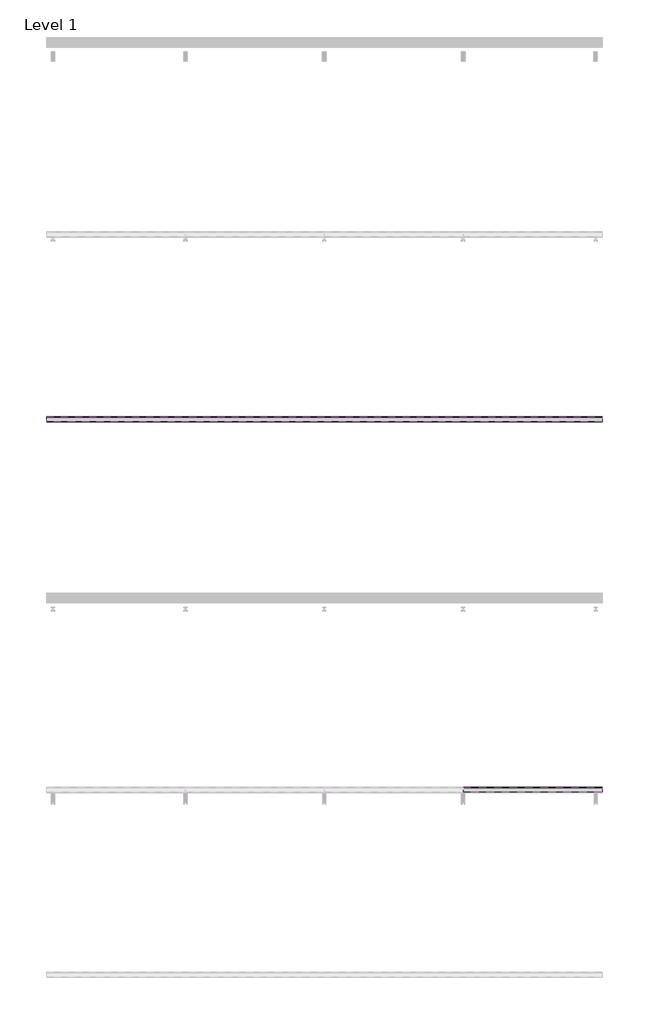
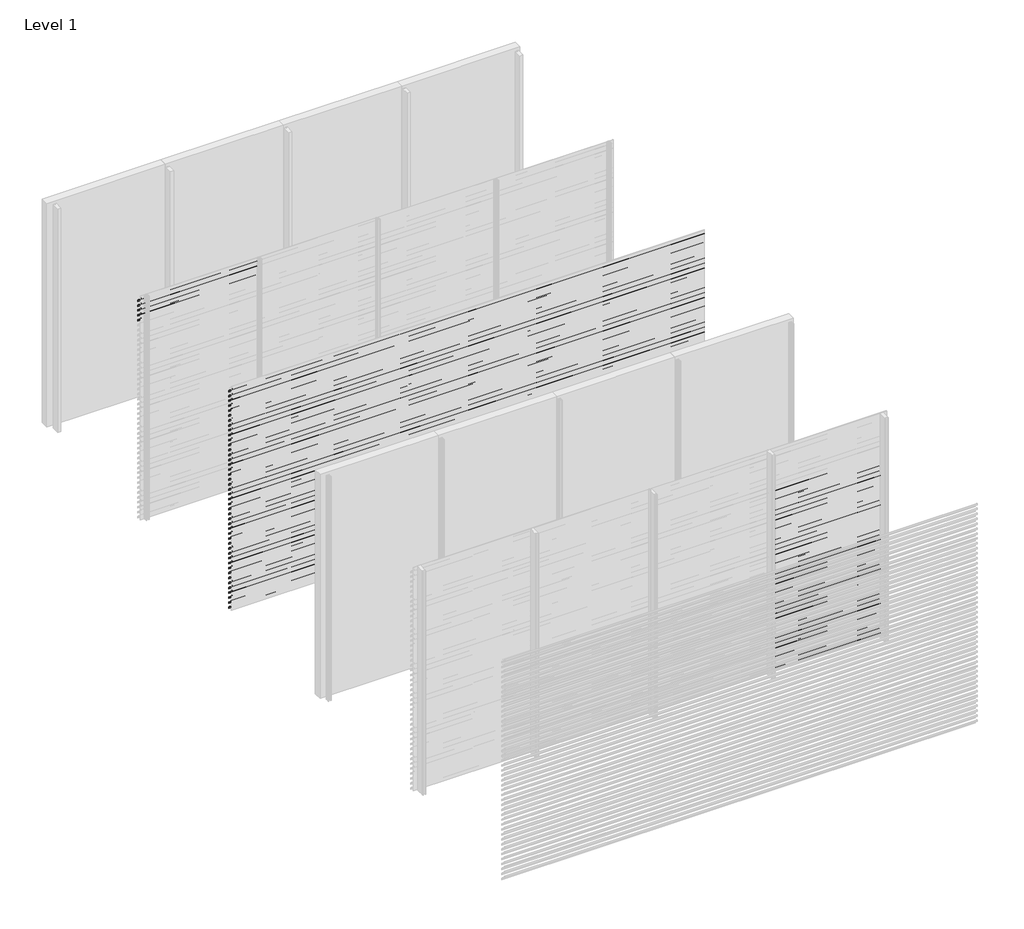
# One storey, part 5 of 25: 87 proxies.
"""IFC4 building model written with IfcOpenShell, lengths in millimetres."""

from ifc_helpers import new_model, si_unit, frame, origin, place, context, project, spatial, polyline, outline, extrude, element, save

model = new_model("IFC4")

# Units and contexts
model_context = context("Model", 3, world=origin())
ifc_project = project(units=[si_unit("LENGTHUNIT", "METRE", prefix="MILLI")], contexts=[model_context])

# Site, building, storey
site = spatial("IfcSite", under=ifc_project)
building = spatial("IfcBuilding", under=site)
storey = spatial("IfcBuildingStorey", under=building, Name="Level 1", Elevation=0.0)

# Proxies
placement = place(None, origin())
element("IfcBuildingElementProxy", 1, Name="Wall Sweeps", at=placement, inside=storey, context=model_context, shape_type="SweptSolid", body=[
    extrude(outline(polyline([(-41943.0, 2913.5), (-41943.0, 2893.5), (-41944.25, 2894.2216933), (-41944.25, 2912.7872415), (-41998.0, 2950.3158044), (-41998.0, 2970.0), (-41996.75, 2970.0), (-41996.75, 2951.0285629), (-41943.0, 2913.5)])), frame((0.0, 0.0, 0.0), z_axis=(1.0, 0.0, 0.0), x_axis=(0.0, 1.0, 0.0)), (0.0, 0.0, 1.0), 1500.0),
])
element("IfcBuildingElementProxy", 2, Name="Wall Sweeps", at=placement, inside=storey, context=model_context, shape_type="SweptSolid", body=[
    extrude(outline(polyline([(-41943.0, 2847.5), (-41943.0, 2827.5), (-41944.25, 2828.2216933), (-41944.25, 2846.7872415), (-41998.0, 2884.3158044), (-41998.0, 2904.0), (-41996.75, 2904.0), (-41996.75, 2885.0285629), (-41943.0, 2847.5)])), frame((0.0, 0.0, 0.0), z_axis=(1.0, 0.0, 0.0), x_axis=(0.0, 1.0, 0.0)), (0.0, 0.0, 1.0), 1500.0),
])
element("IfcBuildingElementProxy", 3, Name="Wall Sweeps", at=placement, inside=storey, context=model_context, shape_type="SweptSolid", body=[
    extrude(outline(polyline([(-41943.0, 2781.5), (-41943.0, 2761.5), (-41944.25, 2762.2216933), (-41944.25, 2780.7872415), (-41998.0, 2818.3158044), (-41998.0, 2838.0), (-41996.75, 2838.0), (-41996.75, 2819.0285629), (-41943.0, 2781.5)])), frame((0.0, 0.0, 0.0), z_axis=(1.0, 0.0, 0.0), x_axis=(0.0, 1.0, 0.0)), (0.0, 0.0, 1.0), 1500.0),
])
element("IfcBuildingElementProxy", 4, Name="Wall Sweeps", at=placement, inside=storey, context=model_context, shape_type="SweptSolid", body=[
    extrude(outline(polyline([(-41943.0, 2715.5), (-41943.0, 2695.5), (-41944.25, 2696.2216933), (-41944.25, 2714.7872415), (-41998.0, 2752.3158044), (-41998.0, 2772.0), (-41996.75, 2772.0), (-41996.75, 2753.0285629), (-41943.0, 2715.5)])), frame((0.0, 0.0, 0.0), z_axis=(1.0, 0.0, 0.0), x_axis=(0.0, 1.0, 0.0)), (0.0, 0.0, 1.0), 1500.0),
])
element("IfcBuildingElementProxy", 5, Name="Wall Sweeps", at=placement, inside=storey, context=model_context, shape_type="SweptSolid", body=[
    extrude(outline(polyline([(-41943.0, 2649.5), (-41943.0, 2629.5), (-41944.25, 2630.2216933), (-41944.25, 2648.7872415), (-41998.0, 2686.3158044), (-41998.0, 2706.0), (-41996.75, 2706.0), (-41996.75, 2687.0285629), (-41943.0, 2649.5)])), frame((0.0, 0.0, 0.0), z_axis=(1.0, 0.0, 0.0), x_axis=(0.0, 1.0, 0.0)), (0.0, 0.0, 1.0), 1500.0),
])
element("IfcBuildingElementProxy", 6, Name="Wall Sweeps", at=placement, inside=storey, context=model_context, shape_type="SweptSolid", body=[
    extrude(outline(polyline([(-43943.0, 2913.5), (-43943.0, 2893.5), (-43944.25, 2894.2216933), (-43944.25, 2912.7872415), (-43998.0, 2950.3158044), (-43998.0, 2970.0), (-43996.75, 2970.0), (-43996.75, 2951.0285629), (-43943.0, 2913.5)])), frame((0.0, 0.0, 0.0), z_axis=(1.0, 0.0, 0.0), x_axis=(0.0, 1.0, 0.0)), (0.0, 0.0, 1.0), 6000.0),
])
element("IfcBuildingElementProxy", 7, Name="Wall Sweeps", at=placement, inside=storey, context=model_context, shape_type="SweptSolid", body=[
    extrude(outline(polyline([(-43943.0, 2847.5), (-43943.0, 2827.5), (-43944.25, 2828.2216933), (-43944.25, 2846.7872415), (-43998.0, 2884.3158044), (-43998.0, 2904.0), (-43996.75, 2904.0), (-43996.75, 2885.0285629), (-43943.0, 2847.5)])), frame((0.0, 0.0, 0.0), z_axis=(1.0, 0.0, 0.0), x_axis=(0.0, 1.0, 0.0)), (0.0, 0.0, 1.0), 6000.0),
])
element("IfcBuildingElementProxy", 8, Name="Wall Sweeps", at=placement, inside=storey, context=model_context, shape_type="SweptSolid", body=[
    extrude(outline(polyline([(-43943.0, 2781.5), (-43943.0, 2761.5), (-43944.25, 2762.2216933), (-43944.25, 2780.7872415), (-43998.0, 2818.3158044), (-43998.0, 2838.0), (-43996.75, 2838.0), (-43996.75, 2819.0285629), (-43943.0, 2781.5)])), frame((0.0, 0.0, 0.0), z_axis=(1.0, 0.0, 0.0), x_axis=(0.0, 1.0, 0.0)), (0.0, 0.0, 1.0), 6000.0),
])
element("IfcBuildingElementProxy", 9, Name="Wall Sweeps", at=placement, inside=storey, context=model_context, shape_type="SweptSolid", body=[
    extrude(outline(polyline([(-43943.0, 2715.5), (-43943.0, 2695.5), (-43944.25, 2696.2216933), (-43944.25, 2714.7872415), (-43998.0, 2752.3158044), (-43998.0, 2772.0), (-43996.75, 2772.0), (-43996.75, 2753.0285629), (-43943.0, 2715.5)])), frame((0.0, 0.0, 0.0), z_axis=(1.0, 0.0, 0.0), x_axis=(0.0, 1.0, 0.0)), (0.0, 0.0, 1.0), 6000.0),
])
element("IfcBuildingElementProxy", 10, Name="Wall Sweeps", at=placement, inside=storey, context=model_context, shape_type="SweptSolid", body=[
    extrude(outline(polyline([(-43943.0, 2649.5), (-43943.0, 2629.5), (-43944.25, 2630.2216933), (-43944.25, 2648.7872415), (-43998.0, 2686.3158044), (-43998.0, 2706.0), (-43996.75, 2706.0), (-43996.75, 2687.0285629), (-43943.0, 2649.5)])), frame((0.0, 0.0, 0.0), z_axis=(1.0, 0.0, 0.0), x_axis=(0.0, 1.0, 0.0)), (0.0, 0.0, 1.0), 6000.0),
])
element("IfcBuildingElementProxy", 11, Name="Wall Sweeps", at=placement, inside=storey, context=model_context, shape_type="SweptSolid", body=[
    extrude(outline(polyline([(-43943.0, 2583.5), (-43943.0, 2563.5), (-43944.25, 2564.2216933), (-43944.25, 2582.7872415), (-43998.0, 2620.3158044), (-43998.0, 2640.0), (-43996.75, 2640.0), (-43996.75, 2621.0285629), (-43943.0, 2583.5)])), frame((0.0, 0.0, 0.0), z_axis=(1.0, 0.0, 0.0), x_axis=(0.0, 1.0, 0.0)), (0.0, 0.0, 1.0), 6000.0),
])
element("IfcBuildingElementProxy", 12, Name="Wall Sweeps", at=placement, inside=storey, context=model_context, shape_type="SweptSolid", body=[
    extrude(outline(polyline([(-43943.0, 2517.5), (-43943.0, 2497.5), (-43944.25, 2498.2216933), (-43944.25, 2516.7872415), (-43998.0, 2554.3158044), (-43998.0, 2574.0), (-43996.75, 2574.0), (-43996.75, 2555.0285629), (-43943.0, 2517.5)])), frame((0.0, 0.0, 0.0), z_axis=(1.0, 0.0, 0.0), x_axis=(0.0, 1.0, 0.0)), (0.0, 0.0, 1.0), 6000.0),
])
element("IfcBuildingElementProxy", 13, Name="Wall Sweeps", at=placement, inside=storey, context=model_context, shape_type="SweptSolid", body=[
    extrude(outline(polyline([(-43943.0, 2451.5), (-43943.0, 2431.5), (-43944.25, 2432.2216933), (-43944.25, 2450.7872415), (-43998.0, 2488.3158044), (-43998.0, 2508.0), (-43996.75, 2508.0), (-43996.75, 2489.0285629), (-43943.0, 2451.5)])), frame((0.0, 0.0, 0.0), z_axis=(1.0, 0.0, 0.0), x_axis=(0.0, 1.0, 0.0)), (0.0, 0.0, 1.0), 6000.0),
])
element("IfcBuildingElementProxy", 14, Name="Wall Sweeps", at=placement, inside=storey, context=model_context, shape_type="SweptSolid", body=[
    extrude(outline(polyline([(-43943.0, 2385.5), (-43943.0, 2365.5), (-43944.25, 2366.2216933), (-43944.25, 2384.7872415), (-43998.0, 2422.3158044), (-43998.0, 2442.0), (-43996.75, 2442.0), (-43996.75, 2423.0285629), (-43943.0, 2385.5)])), frame((0.0, 0.0, 0.0), z_axis=(1.0, 0.0, 0.0), x_axis=(0.0, 1.0, 0.0)), (0.0, 0.0, 1.0), 6000.0),
])
element("IfcBuildingElementProxy", 15, Name="Wall Sweeps", at=placement, inside=storey, context=model_context, shape_type="SweptSolid", body=[
    extrude(outline(polyline([(-43943.0, 2319.5), (-43943.0, 2299.5), (-43944.25, 2300.2216933), (-43944.25, 2318.7872415), (-43998.0, 2356.3158044), (-43998.0, 2376.0), (-43996.75, 2376.0), (-43996.75, 2357.0285629), (-43943.0, 2319.5)])), frame((0.0, 0.0, 0.0), z_axis=(1.0, 0.0, 0.0), x_axis=(0.0, 1.0, 0.0)), (0.0, 0.0, 1.0), 6000.0),
])
element("IfcBuildingElementProxy", 16, Name="Wall Sweeps", at=placement, inside=storey, context=model_context, shape_type="SweptSolid", body=[
    extrude(outline(polyline([(-43943.0, 2253.5), (-43943.0, 2233.5), (-43944.25, 2234.2216933), (-43944.25, 2252.7872415), (-43998.0, 2290.3158044), (-43998.0, 2310.0), (-43996.75, 2310.0), (-43996.75, 2291.0285629), (-43943.0, 2253.5)])), frame((0.0, 0.0, 0.0), z_axis=(1.0, 0.0, 0.0), x_axis=(0.0, 1.0, 0.0)), (0.0, 0.0, 1.0), 6000.0),
])
element("IfcBuildingElementProxy", 17, Name="Wall Sweeps", at=placement, inside=storey, context=model_context, shape_type="SweptSolid", body=[
    extrude(outline(polyline([(-43943.0, 2187.5), (-43943.0, 2167.5), (-43944.25, 2168.2216933), (-43944.25, 2186.7872415), (-43998.0, 2224.3158044), (-43998.0, 2244.0), (-43996.75, 2244.0), (-43996.75, 2225.0285629), (-43943.0, 2187.5)])), frame((0.0, 0.0, 0.0), z_axis=(1.0, 0.0, 0.0), x_axis=(0.0, 1.0, 0.0)), (0.0, 0.0, 1.0), 6000.0),
])
element("IfcBuildingElementProxy", 18, Name="Wall Sweeps", at=placement, inside=storey, context=model_context, shape_type="SweptSolid", body=[
    extrude(outline(polyline([(-43943.0, 2121.5), (-43943.0, 2101.5), (-43944.25, 2102.2216933), (-43944.25, 2120.7872415), (-43998.0, 2158.3158044), (-43998.0, 2178.0), (-43996.75, 2178.0), (-43996.75, 2159.0285629), (-43943.0, 2121.5)])), frame((0.0, 0.0, 0.0), z_axis=(1.0, 0.0, 0.0), x_axis=(0.0, 1.0, 0.0)), (0.0, 0.0, 1.0), 6000.0),
])
element("IfcBuildingElementProxy", 19, Name="Wall Sweeps", at=placement, inside=storey, context=model_context, shape_type="SweptSolid", body=[
    extrude(outline(polyline([(-43943.0, 2055.5), (-43943.0, 2035.5), (-43944.25, 2036.2216933), (-43944.25, 2054.7872415), (-43998.0, 2092.3158044), (-43998.0, 2112.0), (-43996.75, 2112.0), (-43996.75, 2093.0285629), (-43943.0, 2055.5)])), frame((0.0, 0.0, 0.0), z_axis=(1.0, 0.0, 0.0), x_axis=(0.0, 1.0, 0.0)), (0.0, 0.0, 1.0), 6000.0),
])
element("IfcBuildingElementProxy", 20, Name="Wall Sweeps", at=placement, inside=storey, context=model_context, shape_type="SweptSolid", body=[
    extrude(outline(polyline([(-43943.0, 1989.5), (-43943.0, 1969.5), (-43944.25, 1970.2216933), (-43944.25, 1988.7872415), (-43998.0, 2026.3158044), (-43998.0, 2046.0), (-43996.75, 2046.0), (-43996.75, 2027.0285629), (-43943.0, 1989.5)])), frame((0.0, 0.0, 0.0), z_axis=(1.0, 0.0, 0.0), x_axis=(0.0, 1.0, 0.0)), (0.0, 0.0, 1.0), 6000.0),
])
element("IfcBuildingElementProxy", 21, Name="Wall Sweeps", at=placement, inside=storey, context=model_context, shape_type="SweptSolid", body=[
    extrude(outline(polyline([(-43943.0, 1923.5), (-43943.0, 1903.5), (-43944.25, 1904.2216933), (-43944.25, 1922.7872415), (-43998.0, 1960.3158044), (-43998.0, 1980.0), (-43996.75, 1980.0), (-43996.75, 1961.0285629), (-43943.0, 1923.5)])), frame((0.0, 0.0, 0.0), z_axis=(1.0, 0.0, 0.0), x_axis=(0.0, 1.0, 0.0)), (0.0, 0.0, 1.0), 6000.0),
])
element("IfcBuildingElementProxy", 22, Name="Wall Sweeps", at=placement, inside=storey, context=model_context, shape_type="SweptSolid", body=[
    extrude(outline(polyline([(-43943.0, 1857.5), (-43943.0, 1837.5), (-43944.25, 1838.2216933), (-43944.25, 1856.7872415), (-43998.0, 1894.3158044), (-43998.0, 1914.0), (-43996.75, 1914.0), (-43996.75, 1895.0285629), (-43943.0, 1857.5)])), frame((0.0, 0.0, 0.0), z_axis=(1.0, 0.0, 0.0), x_axis=(0.0, 1.0, 0.0)), (0.0, 0.0, 1.0), 6000.0),
])
element("IfcBuildingElementProxy", 23, Name="Wall Sweeps", at=placement, inside=storey, context=model_context, shape_type="SweptSolid", body=[
    extrude(outline(polyline([(-43943.0, 1791.5), (-43943.0, 1771.5), (-43944.25, 1772.2216933), (-43944.25, 1790.7872415), (-43998.0, 1828.3158044), (-43998.0, 1848.0), (-43996.75, 1848.0), (-43996.75, 1829.0285629), (-43943.0, 1791.5)])), frame((0.0, 0.0, 0.0), z_axis=(1.0, 0.0, 0.0), x_axis=(0.0, 1.0, 0.0)), (0.0, 0.0, 1.0), 6000.0),
])
element("IfcBuildingElementProxy", 24, Name="Wall Sweeps", at=placement, inside=storey, context=model_context, shape_type="SweptSolid", body=[
    extrude(outline(polyline([(-43943.0, 1725.5), (-43943.0, 1705.5), (-43944.25, 1706.2216933), (-43944.25, 1724.7872415), (-43998.0, 1762.3158044), (-43998.0, 1782.0), (-43996.75, 1782.0), (-43996.75, 1763.0285629), (-43943.0, 1725.5)])), frame((0.0, 0.0, 0.0), z_axis=(1.0, 0.0, 0.0), x_axis=(0.0, 1.0, 0.0)), (0.0, 0.0, 1.0), 6000.0),
])
element("IfcBuildingElementProxy", 25, Name="Wall Sweeps", at=placement, inside=storey, context=model_context, shape_type="SweptSolid", body=[
    extrude(outline(polyline([(-43943.0, 1659.5), (-43943.0, 1639.5), (-43944.25, 1640.2216933), (-43944.25, 1658.7872415), (-43998.0, 1696.3158044), (-43998.0, 1716.0), (-43996.75, 1716.0), (-43996.75, 1697.0285629), (-43943.0, 1659.5)])), frame((0.0, 0.0, 0.0), z_axis=(1.0, 0.0, 0.0), x_axis=(0.0, 1.0, 0.0)), (0.0, 0.0, 1.0), 6000.0),
])
element("IfcBuildingElementProxy", 26, Name="Wall Sweeps", at=placement, inside=storey, context=model_context, shape_type="SweptSolid", body=[
    extrude(outline(polyline([(-43943.0, 1593.5), (-43943.0, 1573.5), (-43944.25, 1574.2216933), (-43944.25, 1592.7872415), (-43998.0, 1630.3158044), (-43998.0, 1650.0), (-43996.75, 1650.0), (-43996.75, 1631.0285629), (-43943.0, 1593.5)])), frame((0.0, 0.0, 0.0), z_axis=(1.0, 0.0, 0.0), x_axis=(0.0, 1.0, 0.0)), (0.0, 0.0, 1.0), 6000.0),
])
element("IfcBuildingElementProxy", 27, Name="Wall Sweeps", at=placement, inside=storey, context=model_context, shape_type="SweptSolid", body=[
    extrude(outline(polyline([(-43943.0, 1527.5), (-43943.0, 1507.5), (-43944.25, 1508.2216933), (-43944.25, 1526.7872415), (-43998.0, 1564.3158044), (-43998.0, 1584.0), (-43996.75, 1584.0), (-43996.75, 1565.0285629), (-43943.0, 1527.5)])), frame((0.0, 0.0, 0.0), z_axis=(1.0, 0.0, 0.0), x_axis=(0.0, 1.0, 0.0)), (0.0, 0.0, 1.0), 6000.0),
])
element("IfcBuildingElementProxy", 28, Name="Wall Sweeps", at=placement, inside=storey, context=model_context, shape_type="SweptSolid", body=[
    extrude(outline(polyline([(-43943.0, 1461.5), (-43943.0, 1441.5), (-43944.25, 1442.2216933), (-43944.25, 1460.7872415), (-43998.0, 1498.3158044), (-43998.0, 1518.0), (-43996.75, 1518.0), (-43996.75, 1499.0285629), (-43943.0, 1461.5)])), frame((0.0, 0.0, 0.0), z_axis=(1.0, 0.0, 0.0), x_axis=(0.0, 1.0, 0.0)), (0.0, 0.0, 1.0), 6000.0),
])
element("IfcBuildingElementProxy", 29, Name="Wall Sweeps", at=placement, inside=storey, context=model_context, shape_type="SweptSolid", body=[
    extrude(outline(polyline([(-43943.0, 1395.5), (-43943.0, 1375.5), (-43944.25, 1376.2216933), (-43944.25, 1394.7872415), (-43998.0, 1432.3158044), (-43998.0, 1452.0), (-43996.75, 1452.0), (-43996.75, 1433.0285629), (-43943.0, 1395.5)])), frame((0.0, 0.0, 0.0), z_axis=(1.0, 0.0, 0.0), x_axis=(0.0, 1.0, 0.0)), (0.0, 0.0, 1.0), 6000.0),
])
element("IfcBuildingElementProxy", 30, Name="Wall Sweeps", at=placement, inside=storey, context=model_context, shape_type="SweptSolid", body=[
    extrude(outline(polyline([(-43943.0, 1329.5), (-43943.0, 1309.5), (-43944.25, 1310.2216933), (-43944.25, 1328.7872415), (-43998.0, 1366.3158044), (-43998.0, 1386.0), (-43996.75, 1386.0), (-43996.75, 1367.0285629), (-43943.0, 1329.5)])), frame((0.0, 0.0, 0.0), z_axis=(1.0, 0.0, 0.0), x_axis=(0.0, 1.0, 0.0)), (0.0, 0.0, 1.0), 6000.0),
])
element("IfcBuildingElementProxy", 31, Name="Wall Sweeps", at=placement, inside=storey, context=model_context, shape_type="SweptSolid", body=[
    extrude(outline(polyline([(-43943.0, 1263.5), (-43943.0, 1243.5), (-43944.25, 1244.2216933), (-43944.25, 1262.7872415), (-43998.0, 1300.3158044), (-43998.0, 1320.0), (-43996.75, 1320.0), (-43996.75, 1301.0285629), (-43943.0, 1263.5)])), frame((0.0, 0.0, 0.0), z_axis=(1.0, 0.0, 0.0), x_axis=(0.0, 1.0, 0.0)), (0.0, 0.0, 1.0), 6000.0),
])
element("IfcBuildingElementProxy", 32, Name="Wall Sweeps", at=placement, inside=storey, context=model_context, shape_type="SweptSolid", body=[
    extrude(outline(polyline([(-43943.0, 1197.5), (-43943.0, 1177.5), (-43944.25, 1178.2216933), (-43944.25, 1196.7872415), (-43998.0, 1234.3158044), (-43998.0, 1254.0), (-43996.75, 1254.0), (-43996.75, 1235.0285629), (-43943.0, 1197.5)])), frame((0.0, 0.0, 0.0), z_axis=(1.0, 0.0, 0.0), x_axis=(0.0, 1.0, 0.0)), (0.0, 0.0, 1.0), 6000.0),
])
element("IfcBuildingElementProxy", 33, Name="Wall Sweeps", at=placement, inside=storey, context=model_context, shape_type="SweptSolid", body=[
    extrude(outline(polyline([(-43943.0, 1131.5), (-43943.0, 1111.5), (-43944.25, 1112.2216933), (-43944.25, 1130.7872415), (-43998.0, 1168.3158044), (-43998.0, 1188.0), (-43996.75, 1188.0), (-43996.75, 1169.0285629), (-43943.0, 1131.5)])), frame((0.0, 0.0, 0.0), z_axis=(1.0, 0.0, 0.0), x_axis=(0.0, 1.0, 0.0)), (0.0, 0.0, 1.0), 6000.0),
])
element("IfcBuildingElementProxy", 34, Name="Wall Sweeps", at=placement, inside=storey, context=model_context, shape_type="SweptSolid", body=[
    extrude(outline(polyline([(-43943.0, 1065.5), (-43943.0, 1045.5), (-43944.25, 1046.2216933), (-43944.25, 1064.7872415), (-43998.0, 1102.3158044), (-43998.0, 1122.0), (-43996.75, 1122.0), (-43996.75, 1103.0285629), (-43943.0, 1065.5)])), frame((0.0, 0.0, 0.0), z_axis=(1.0, 0.0, 0.0), x_axis=(0.0, 1.0, 0.0)), (0.0, 0.0, 1.0), 6000.0),
])
element("IfcBuildingElementProxy", 35, Name="Wall Sweeps", at=placement, inside=storey, context=model_context, shape_type="SweptSolid", body=[
    extrude(outline(polyline([(-43943.0, 999.5), (-43943.0, 979.5), (-43944.25, 980.2216933), (-43944.25, 998.7872415), (-43998.0, 1036.3158044), (-43998.0, 1056.0), (-43996.75, 1056.0), (-43996.75, 1037.0285629), (-43943.0, 999.5)])), frame((0.0, 0.0, 0.0), z_axis=(1.0, 0.0, 0.0), x_axis=(0.0, 1.0, 0.0)), (0.0, 0.0, 1.0), 6000.0),
])
element("IfcBuildingElementProxy", 36, Name="Wall Sweeps", at=placement, inside=storey, context=model_context, shape_type="SweptSolid", body=[
    extrude(outline(polyline([(-43943.0, 933.5), (-43943.0, 913.5), (-43944.25, 914.2216933), (-43944.25, 932.7872415), (-43998.0, 970.3158044), (-43998.0, 990.0), (-43996.75, 990.0), (-43996.75, 971.0285629), (-43943.0, 933.5)])), frame((0.0, 0.0, 0.0), z_axis=(1.0, 0.0, 0.0), x_axis=(0.0, 1.0, 0.0)), (0.0, 0.0, 1.0), 6000.0),
])
element("IfcBuildingElementProxy", 37, Name="Wall Sweeps", at=placement, inside=storey, context=model_context, shape_type="SweptSolid", body=[
    extrude(outline(polyline([(-43943.0, 867.5), (-43943.0, 847.5), (-43944.25, 848.2216933), (-43944.25, 866.7872415), (-43998.0, 904.3158044), (-43998.0, 924.0), (-43996.75, 924.0), (-43996.75, 905.0285629), (-43943.0, 867.5)])), frame((0.0, 0.0, 0.0), z_axis=(1.0, 0.0, 0.0), x_axis=(0.0, 1.0, 0.0)), (0.0, 0.0, 1.0), 6000.0),
])
element("IfcBuildingElementProxy", 38, Name="Wall Sweeps", at=placement, inside=storey, context=model_context, shape_type="SweptSolid", body=[
    extrude(outline(polyline([(-43943.0, 801.5), (-43943.0, 781.5), (-43944.25, 782.2216933), (-43944.25, 800.7872415), (-43998.0, 838.3158044), (-43998.0, 858.0), (-43996.75, 858.0), (-43996.75, 839.0285629), (-43943.0, 801.5)])), frame((0.0, 0.0, 0.0), z_axis=(1.0, 0.0, 0.0), x_axis=(0.0, 1.0, 0.0)), (0.0, 0.0, 1.0), 6000.0),
])
element("IfcBuildingElementProxy", 39, Name="Wall Sweeps", at=placement, inside=storey, context=model_context, shape_type="SweptSolid", body=[
    extrude(outline(polyline([(-43943.0, 735.5), (-43943.0, 715.5), (-43944.25, 716.2216933), (-43944.25, 734.7872415), (-43998.0, 772.3158044), (-43998.0, 792.0), (-43996.75, 792.0), (-43996.75, 773.0285629), (-43943.0, 735.5)])), frame((0.0, 0.0, 0.0), z_axis=(1.0, 0.0, 0.0), x_axis=(0.0, 1.0, 0.0)), (0.0, 0.0, 1.0), 6000.0),
])
element("IfcBuildingElementProxy", 40, Name="Wall Sweeps", at=placement, inside=storey, context=model_context, shape_type="SweptSolid", body=[
    extrude(outline(polyline([(-43943.0, 669.5), (-43943.0, 649.5), (-43944.25, 650.2216933), (-43944.25, 668.7872415), (-43998.0, 706.3158044), (-43998.0, 726.0), (-43996.75, 726.0), (-43996.75, 707.0285629), (-43943.0, 669.5)])), frame((0.0, 0.0, 0.0), z_axis=(1.0, 0.0, 0.0), x_axis=(0.0, 1.0, 0.0)), (0.0, 0.0, 1.0), 6000.0),
])
element("IfcBuildingElementProxy", 41, Name="Wall Sweeps", at=placement, inside=storey, context=model_context, shape_type="SweptSolid", body=[
    extrude(outline(polyline([(-43943.0, 603.5), (-43943.0, 583.5), (-43944.25, 584.2216933), (-43944.25, 602.7872415), (-43998.0, 640.3158044), (-43998.0, 660.0), (-43996.75, 660.0), (-43996.75, 641.0285629), (-43943.0, 603.5)])), frame((0.0, 0.0, 0.0), z_axis=(1.0, 0.0, 0.0), x_axis=(0.0, 1.0, 0.0)), (0.0, 0.0, 1.0), 6000.0),
])
element("IfcBuildingElementProxy", 42, Name="Wall Sweeps", at=placement, inside=storey, context=model_context, shape_type="SweptSolid", body=[
    extrude(outline(polyline([(-43943.0, 537.5), (-43943.0, 517.5), (-43944.25, 518.2216933), (-43944.25, 536.7872415), (-43998.0, 574.3158044), (-43998.0, 594.0), (-43996.75, 594.0), (-43996.75, 575.0285629), (-43943.0, 537.5)])), frame((0.0, 0.0, 0.0), z_axis=(1.0, 0.0, 0.0), x_axis=(0.0, 1.0, 0.0)), (0.0, 0.0, 1.0), 6000.0),
])
element("IfcBuildingElementProxy", 43, Name="Wall Sweeps", at=placement, inside=storey, context=model_context, shape_type="SweptSolid", body=[
    extrude(outline(polyline([(-43943.0, 471.5), (-43943.0, 451.5), (-43944.25, 452.2216933), (-43944.25, 470.7872415), (-43998.0, 508.3158044), (-43998.0, 528.0), (-43996.75, 528.0), (-43996.75, 509.0285629), (-43943.0, 471.5)])), frame((0.0, 0.0, 0.0), z_axis=(1.0, 0.0, 0.0), x_axis=(0.0, 1.0, 0.0)), (0.0, 0.0, 1.0), 6000.0),
])
element("IfcBuildingElementProxy", 44, Name="Wall Sweeps", at=placement, inside=storey, context=model_context, shape_type="SweptSolid", body=[
    extrude(outline(polyline([(-43943.0, 405.5), (-43943.0, 385.5), (-43944.25, 386.2216933), (-43944.25, 404.7872415), (-43998.0, 442.3158044), (-43998.0, 462.0), (-43996.75, 462.0), (-43996.75, 443.0285629), (-43943.0, 405.5)])), frame((0.0, 0.0, 0.0), z_axis=(1.0, 0.0, 0.0), x_axis=(0.0, 1.0, 0.0)), (0.0, 0.0, 1.0), 6000.0),
])
element("IfcBuildingElementProxy", 45, Name="Wall Sweeps", at=placement, inside=storey, context=model_context, shape_type="SweptSolid", body=[
    extrude(outline(polyline([(-43943.0, 339.5), (-43943.0, 319.5), (-43944.25, 320.2216933), (-43944.25, 338.7872415), (-43998.0, 376.3158044), (-43998.0, 396.0), (-43996.75, 396.0), (-43996.75, 377.0285629), (-43943.0, 339.5)])), frame((0.0, 0.0, 0.0), z_axis=(1.0, 0.0, 0.0), x_axis=(0.0, 1.0, 0.0)), (0.0, 0.0, 1.0), 6000.0),
])
element("IfcBuildingElementProxy", 46, Name="Wall Sweeps", at=placement, inside=storey, context=model_context, shape_type="SweptSolid", body=[
    extrude(outline(polyline([(-43943.0, 273.5), (-43943.0, 253.5), (-43944.25, 254.2216933), (-43944.25, 272.7872415), (-43998.0, 310.3158044), (-43998.0, 330.0), (-43996.75, 330.0), (-43996.75, 311.0285629), (-43943.0, 273.5)])), frame((0.0, 0.0, 0.0), z_axis=(1.0, 0.0, 0.0), x_axis=(0.0, 1.0, 0.0)), (0.0, 0.0, 1.0), 6000.0),
])
element("IfcBuildingElementProxy", 47, Name="Wall Sweeps", at=placement, inside=storey, context=model_context, shape_type="SweptSolid", body=[
    extrude(outline(polyline([(-43943.0, 207.5), (-43943.0, 187.5), (-43944.25, 188.2216933), (-43944.25, 206.7872415), (-43998.0, 244.3158044), (-43998.0, 264.0), (-43996.75, 264.0), (-43996.75, 245.0285629), (-43943.0, 207.5)])), frame((0.0, 0.0, 0.0), z_axis=(1.0, 0.0, 0.0), x_axis=(0.0, 1.0, 0.0)), (0.0, 0.0, 1.0), 6000.0),
])
element("IfcBuildingElementProxy", 48, Name="Wall Sweeps", at=placement, inside=storey, context=model_context, shape_type="SweptSolid", body=[
    extrude(outline(polyline([(-43943.0, 141.5), (-43943.0, 121.5), (-43944.25, 122.2216933), (-43944.25, 140.7872415), (-43998.0, 178.3158044), (-43998.0, 198.0), (-43996.75, 198.0), (-43996.75, 179.0285629), (-43943.0, 141.5)])), frame((0.0, 0.0, 0.0), z_axis=(1.0, 0.0, 0.0), x_axis=(0.0, 1.0, 0.0)), (0.0, 0.0, 1.0), 6000.0),
])
element("IfcBuildingElementProxy", 49, Name="Wall Sweeps", at=placement, inside=storey, context=model_context, shape_type="SweptSolid", body=[
    extrude(outline(polyline([(-43943.0, 75.5), (-43943.0, 55.5), (-43944.25, 56.2216933), (-43944.25, 74.7872415), (-43998.0, 112.3158044), (-43998.0, 132.0), (-43996.75, 132.0), (-43996.75, 113.0285629), (-43943.0, 75.5)])), frame((0.0, 0.0, 0.0), z_axis=(1.0, 0.0, 0.0), x_axis=(0.0, 1.0, 0.0)), (0.0, 0.0, 1.0), 6000.0),
])
element("IfcBuildingElementProxy", 50, Name="Wall Sweeps", at=placement, inside=storey, context=model_context, shape_type="SweptSolid", body=[
    extrude(outline(polyline([(-43943.0, 9.5), (-43943.0, -10.5), (-43944.25, -9.7783067), (-43944.25, 8.7872415), (-43998.0, 46.3158044), (-43998.0, 66.0), (-43996.75, 66.0), (-43996.75, 47.0285629), (-43943.0, 9.5)])), frame((0.0, 0.0, 0.0), z_axis=(1.0, 0.0, 0.0), x_axis=(0.0, 1.0, 0.0)), (0.0, 0.0, 1.0), 6000.0),
])
element("IfcBuildingElementProxy", 51, Name="Wall Sweeps", at=placement, inside=storey, context=model_context, shape_type="SweptSolid", body=[
    extrude(outline(polyline([(-47943.0, 2385.5), (-47943.0, 2365.5), (-47944.25, 2366.2216933), (-47944.25, 2384.7872415), (-47998.0, 2422.3158044), (-47998.0, 2442.0), (-47996.75, 2442.0), (-47996.75, 2423.0285629), (-47943.0, 2385.5)])), frame((4500.0, 0.0, 0.0), z_axis=(1.0, 0.0, 0.0), x_axis=(0.0, 1.0, 0.0)), (0.0, 0.0, 1.0), 1500.0),
])
element("IfcBuildingElementProxy", 52, Name="Wall Sweeps", at=placement, inside=storey, context=model_context, shape_type="SweptSolid", body=[
    extrude(outline(polyline([(-47943.0, 2319.5), (-47943.0, 2299.5), (-47944.25, 2300.2216933), (-47944.25, 2318.7872415), (-47998.0, 2356.3158044), (-47998.0, 2376.0), (-47996.75, 2376.0), (-47996.75, 2357.0285629), (-47943.0, 2319.5)])), frame((4500.0, 0.0, 0.0), z_axis=(1.0, 0.0, 0.0), x_axis=(0.0, 1.0, 0.0)), (0.0, 0.0, 1.0), 1500.0),
])
element("IfcBuildingElementProxy", 53, Name="Wall Sweeps", at=placement, inside=storey, context=model_context, shape_type="SweptSolid", body=[
    extrude(outline(polyline([(-47943.0, 2253.5), (-47943.0, 2233.5), (-47944.25, 2234.2216933), (-47944.25, 2252.7872415), (-47998.0, 2290.3158044), (-47998.0, 2310.0), (-47996.75, 2310.0), (-47996.75, 2291.0285629), (-47943.0, 2253.5)])), frame((4500.0, 0.0, 0.0), z_axis=(1.0, 0.0, 0.0), x_axis=(0.0, 1.0, 0.0)), (0.0, 0.0, 1.0), 1500.0),
])
element("IfcBuildingElementProxy", 54, Name="Wall Sweeps", at=placement, inside=storey, context=model_context, shape_type="SweptSolid", body=[
    extrude(outline(polyline([(-47943.0, 2187.5), (-47943.0, 2167.5), (-47944.25, 2168.2216933), (-47944.25, 2186.7872415), (-47998.0, 2224.3158044), (-47998.0, 2244.0), (-47996.75, 2244.0), (-47996.75, 2225.0285629), (-47943.0, 2187.5)])), frame((4500.0, 0.0, 0.0), z_axis=(1.0, 0.0, 0.0), x_axis=(0.0, 1.0, 0.0)), (0.0, 0.0, 1.0), 1500.0),
])
element("IfcBuildingElementProxy", 55, Name="Wall Sweeps", at=placement, inside=storey, context=model_context, shape_type="SweptSolid", body=[
    extrude(outline(polyline([(-47943.0, 2121.5), (-47943.0, 2101.5), (-47944.25, 2102.2216933), (-47944.25, 2120.7872415), (-47998.0, 2158.3158044), (-47998.0, 2178.0), (-47996.75, 2178.0), (-47996.75, 2159.0285629), (-47943.0, 2121.5)])), frame((4500.0, 0.0, 0.0), z_axis=(1.0, 0.0, 0.0), x_axis=(0.0, 1.0, 0.0)), (0.0, 0.0, 1.0), 1500.0),
])
element("IfcBuildingElementProxy", 56, Name="Wall Sweeps", at=placement, inside=storey, context=model_context, shape_type="SweptSolid", body=[
    extrude(outline(polyline([(-47943.0, 2055.5), (-47943.0, 2035.5), (-47944.25, 2036.2216933), (-47944.25, 2054.7872415), (-47998.0, 2092.3158044), (-47998.0, 2112.0), (-47996.75, 2112.0), (-47996.75, 2093.0285629), (-47943.0, 2055.5)])), frame((4500.0, 0.0, 0.0), z_axis=(1.0, 0.0, 0.0), x_axis=(0.0, 1.0, 0.0)), (0.0, 0.0, 1.0), 1500.0),
])
element("IfcBuildingElementProxy", 57, Name="Wall Sweeps", at=placement, inside=storey, context=model_context, shape_type="SweptSolid", body=[
    extrude(outline(polyline([(-47943.0, 1989.5), (-47943.0, 1969.5), (-47944.25, 1970.2216933), (-47944.25, 1988.7872415), (-47998.0, 2026.3158044), (-47998.0, 2046.0), (-47996.75, 2046.0), (-47996.75, 2027.0285629), (-47943.0, 1989.5)])), frame((4500.0, 0.0, 0.0), z_axis=(1.0, 0.0, 0.0), x_axis=(0.0, 1.0, 0.0)), (0.0, 0.0, 1.0), 1500.0),
])
element("IfcBuildingElementProxy", 58, Name="Wall Sweeps", at=placement, inside=storey, context=model_context, shape_type="SweptSolid", body=[
    extrude(outline(polyline([(-47943.0, 1923.5), (-47943.0, 1903.5), (-47944.25, 1904.2216933), (-47944.25, 1922.7872415), (-47998.0, 1960.3158044), (-47998.0, 1980.0), (-47996.75, 1980.0), (-47996.75, 1961.0285629), (-47943.0, 1923.5)])), frame((4500.0, 0.0, 0.0), z_axis=(1.0, 0.0, 0.0), x_axis=(0.0, 1.0, 0.0)), (0.0, 0.0, 1.0), 1500.0),
])
element("IfcBuildingElementProxy", 59, Name="Wall Sweeps", at=placement, inside=storey, context=model_context, shape_type="SweptSolid", body=[
    extrude(outline(polyline([(-47943.0, 1857.5), (-47943.0, 1837.5), (-47944.25, 1838.2216933), (-47944.25, 1856.7872415), (-47998.0, 1894.3158044), (-47998.0, 1914.0), (-47996.75, 1914.0), (-47996.75, 1895.0285629), (-47943.0, 1857.5)])), frame((4500.0, 0.0, 0.0), z_axis=(1.0, 0.0, 0.0), x_axis=(0.0, 1.0, 0.0)), (0.0, 0.0, 1.0), 1500.0),
])
element("IfcBuildingElementProxy", 60, Name="Wall Sweeps", at=placement, inside=storey, context=model_context, shape_type="SweptSolid", body=[
    extrude(outline(polyline([(-47943.0, 1791.5), (-47943.0, 1771.5), (-47944.25, 1772.2216933), (-47944.25, 1790.7872415), (-47998.0, 1828.3158044), (-47998.0, 1848.0), (-47996.75, 1848.0), (-47996.75, 1829.0285629), (-47943.0, 1791.5)])), frame((4500.0, 0.0, 0.0), z_axis=(1.0, 0.0, 0.0), x_axis=(0.0, 1.0, 0.0)), (0.0, 0.0, 1.0), 1500.0),
])
element("IfcBuildingElementProxy", 61, Name="Wall Sweeps", at=placement, inside=storey, context=model_context, shape_type="SweptSolid", body=[
    extrude(outline(polyline([(-47943.0, 1725.5), (-47943.0, 1705.5), (-47944.25, 1706.2216933), (-47944.25, 1724.7872415), (-47998.0, 1762.3158044), (-47998.0, 1782.0), (-47996.75, 1782.0), (-47996.75, 1763.0285629), (-47943.0, 1725.5)])), frame((4500.0, 0.0, 0.0), z_axis=(1.0, 0.0, 0.0), x_axis=(0.0, 1.0, 0.0)), (0.0, 0.0, 1.0), 1500.0),
])
element("IfcBuildingElementProxy", 62, Name="Wall Sweeps", at=placement, inside=storey, context=model_context, shape_type="SweptSolid", body=[
    extrude(outline(polyline([(-47943.0, 1659.5), (-47943.0, 1639.5), (-47944.25, 1640.2216933), (-47944.25, 1658.7872415), (-47998.0, 1696.3158044), (-47998.0, 1716.0), (-47996.75, 1716.0), (-47996.75, 1697.0285629), (-47943.0, 1659.5)])), frame((4500.0, 0.0, 0.0), z_axis=(1.0, 0.0, 0.0), x_axis=(0.0, 1.0, 0.0)), (0.0, 0.0, 1.0), 1500.0),
])
element("IfcBuildingElementProxy", 63, Name="Wall Sweeps", at=placement, inside=storey, context=model_context, shape_type="SweptSolid", body=[
    extrude(outline(polyline([(-47943.0, 1593.5), (-47943.0, 1573.5), (-47944.25, 1574.2216933), (-47944.25, 1592.7872415), (-47998.0, 1630.3158044), (-47998.0, 1650.0), (-47996.75, 1650.0), (-47996.75, 1631.0285629), (-47943.0, 1593.5)])), frame((4500.0, 0.0, 0.0), z_axis=(1.0, 0.0, 0.0), x_axis=(0.0, 1.0, 0.0)), (0.0, 0.0, 1.0), 1500.0),
])
element("IfcBuildingElementProxy", 64, Name="Wall Sweeps", at=placement, inside=storey, context=model_context, shape_type="SweptSolid", body=[
    extrude(outline(polyline([(-47943.0, 1527.5), (-47943.0, 1507.5), (-47944.25, 1508.2216933), (-47944.25, 1526.7872415), (-47998.0, 1564.3158044), (-47998.0, 1584.0), (-47996.75, 1584.0), (-47996.75, 1565.0285629), (-47943.0, 1527.5)])), frame((4500.0, 0.0, 0.0), z_axis=(1.0, 0.0, 0.0), x_axis=(0.0, 1.0, 0.0)), (0.0, 0.0, 1.0), 1500.0),
])
element("IfcBuildingElementProxy", 65, Name="Wall Sweeps", at=placement, inside=storey, context=model_context, shape_type="SweptSolid", body=[
    extrude(outline(polyline([(-47943.0, 1461.5), (-47943.0, 1441.5), (-47944.25, 1442.2216933), (-47944.25, 1460.7872415), (-47998.0, 1498.3158044), (-47998.0, 1518.0), (-47996.75, 1518.0), (-47996.75, 1499.0285629), (-47943.0, 1461.5)])), frame((4500.0, 0.0, 0.0), z_axis=(1.0, 0.0, 0.0), x_axis=(0.0, 1.0, 0.0)), (0.0, 0.0, 1.0), 1500.0),
])
element("IfcBuildingElementProxy", 66, Name="Wall Sweeps", at=placement, inside=storey, context=model_context, shape_type="SweptSolid", body=[
    extrude(outline(polyline([(-47943.0, 1395.5), (-47943.0, 1375.5), (-47944.25, 1376.2216933), (-47944.25, 1394.7872415), (-47998.0, 1432.3158044), (-47998.0, 1452.0), (-47996.75, 1452.0), (-47996.75, 1433.0285629), (-47943.0, 1395.5)])), frame((4500.0, 0.0, 0.0), z_axis=(1.0, 0.0, 0.0), x_axis=(0.0, 1.0, 0.0)), (0.0, 0.0, 1.0), 1500.0),
])
element("IfcBuildingElementProxy", 67, Name="Wall Sweeps", at=placement, inside=storey, context=model_context, shape_type="SweptSolid", body=[
    extrude(outline(polyline([(-47943.0, 1329.5), (-47943.0, 1309.5), (-47944.25, 1310.2216933), (-47944.25, 1328.7872415), (-47998.0, 1366.3158044), (-47998.0, 1386.0), (-47996.75, 1386.0), (-47996.75, 1367.0285629), (-47943.0, 1329.5)])), frame((4500.0, 0.0, 0.0), z_axis=(1.0, 0.0, 0.0), x_axis=(0.0, 1.0, 0.0)), (0.0, 0.0, 1.0), 1500.0),
])
element("IfcBuildingElementProxy", 68, Name="Wall Sweeps", at=placement, inside=storey, context=model_context, shape_type="SweptSolid", body=[
    extrude(outline(polyline([(-47943.0, 1263.5), (-47943.0, 1243.5), (-47944.25, 1244.2216933), (-47944.25, 1262.7872415), (-47998.0, 1300.3158044), (-47998.0, 1320.0), (-47996.75, 1320.0), (-47996.75, 1301.0285629), (-47943.0, 1263.5)])), frame((4500.0, 0.0, 0.0), z_axis=(1.0, 0.0, 0.0), x_axis=(0.0, 1.0, 0.0)), (0.0, 0.0, 1.0), 1500.0),
])
element("IfcBuildingElementProxy", 69, Name="Wall Sweeps", at=placement, inside=storey, context=model_context, shape_type="SweptSolid", body=[
    extrude(outline(polyline([(-47943.0, 1197.5), (-47943.0, 1177.5), (-47944.25, 1178.2216933), (-47944.25, 1196.7872415), (-47998.0, 1234.3158044), (-47998.0, 1254.0), (-47996.75, 1254.0), (-47996.75, 1235.0285629), (-47943.0, 1197.5)])), frame((4500.0, 0.0, 0.0), z_axis=(1.0, 0.0, 0.0), x_axis=(0.0, 1.0, 0.0)), (0.0, 0.0, 1.0), 1500.0),
])
element("IfcBuildingElementProxy", 70, Name="Wall Sweeps", at=placement, inside=storey, context=model_context, shape_type="SweptSolid", body=[
    extrude(outline(polyline([(-47943.0, 1131.5), (-47943.0, 1111.5), (-47944.25, 1112.2216933), (-47944.25, 1130.7872415), (-47998.0, 1168.3158044), (-47998.0, 1188.0), (-47996.75, 1188.0), (-47996.75, 1169.0285629), (-47943.0, 1131.5)])), frame((4500.0, 0.0, 0.0), z_axis=(1.0, 0.0, 0.0), x_axis=(0.0, 1.0, 0.0)), (0.0, 0.0, 1.0), 1500.0),
])
element("IfcBuildingElementProxy", 71, Name="Wall Sweeps", at=placement, inside=storey, context=model_context, shape_type="SweptSolid", body=[
    extrude(outline(polyline([(-47943.0, 1065.5), (-47943.0, 1045.5), (-47944.25, 1046.2216933), (-47944.25, 1064.7872415), (-47998.0, 1102.3158044), (-47998.0, 1122.0), (-47996.75, 1122.0), (-47996.75, 1103.0285629), (-47943.0, 1065.5)])), frame((4500.0, 0.0, 0.0), z_axis=(1.0, 0.0, 0.0), x_axis=(0.0, 1.0, 0.0)), (0.0, 0.0, 1.0), 1500.0),
])
element("IfcBuildingElementProxy", 72, Name="Wall Sweeps", at=placement, inside=storey, context=model_context, shape_type="SweptSolid", body=[
    extrude(outline(polyline([(-47943.0, 999.5), (-47943.0, 979.5), (-47944.25, 980.2216933), (-47944.25, 998.7872415), (-47998.0, 1036.3158044), (-47998.0, 1056.0), (-47996.75, 1056.0), (-47996.75, 1037.0285629), (-47943.0, 999.5)])), frame((4500.0, 0.0, 0.0), z_axis=(1.0, 0.0, 0.0), x_axis=(0.0, 1.0, 0.0)), (0.0, 0.0, 1.0), 1500.0),
])
element("IfcBuildingElementProxy", 73, Name="Wall Sweeps", at=placement, inside=storey, context=model_context, shape_type="SweptSolid", body=[
    extrude(outline(polyline([(-47943.0, 933.5), (-47943.0, 913.5), (-47944.25, 914.2216933), (-47944.25, 932.7872415), (-47998.0, 970.3158044), (-47998.0, 990.0), (-47996.75, 990.0), (-47996.75, 971.0285629), (-47943.0, 933.5)])), frame((4500.0, 0.0, 0.0), z_axis=(1.0, 0.0, 0.0), x_axis=(0.0, 1.0, 0.0)), (0.0, 0.0, 1.0), 1500.0),
])
element("IfcBuildingElementProxy", 74, Name="Wall Sweeps", at=placement, inside=storey, context=model_context, shape_type="SweptSolid", body=[
    extrude(outline(polyline([(-47943.0, 867.5), (-47943.0, 847.5), (-47944.25, 848.2216933), (-47944.25, 866.7872415), (-47998.0, 904.3158044), (-47998.0, 924.0), (-47996.75, 924.0), (-47996.75, 905.0285629), (-47943.0, 867.5)])), frame((4500.0, 0.0, 0.0), z_axis=(1.0, 0.0, 0.0), x_axis=(0.0, 1.0, 0.0)), (0.0, 0.0, 1.0), 1500.0),
])
element("IfcBuildingElementProxy", 75, Name="Wall Sweeps", at=placement, inside=storey, context=model_context, shape_type="SweptSolid", body=[
    extrude(outline(polyline([(-47943.0, 801.5), (-47943.0, 781.5), (-47944.25, 782.2216933), (-47944.25, 800.7872415), (-47998.0, 838.3158044), (-47998.0, 858.0), (-47996.75, 858.0), (-47996.75, 839.0285629), (-47943.0, 801.5)])), frame((4500.0, 0.0, 0.0), z_axis=(1.0, 0.0, 0.0), x_axis=(0.0, 1.0, 0.0)), (0.0, 0.0, 1.0), 1500.0),
])
element("IfcBuildingElementProxy", 76, Name="Wall Sweeps", at=placement, inside=storey, context=model_context, shape_type="SweptSolid", body=[
    extrude(outline(polyline([(-47943.0, 735.5), (-47943.0, 715.5), (-47944.25, 716.2216933), (-47944.25, 734.7872415), (-47998.0, 772.3158044), (-47998.0, 792.0), (-47996.75, 792.0), (-47996.75, 773.0285629), (-47943.0, 735.5)])), frame((4500.0, 0.0, 0.0), z_axis=(1.0, 0.0, 0.0), x_axis=(0.0, 1.0, 0.0)), (0.0, 0.0, 1.0), 1500.0),
])
element("IfcBuildingElementProxy", 77, Name="Wall Sweeps", at=placement, inside=storey, context=model_context, shape_type="SweptSolid", body=[
    extrude(outline(polyline([(-47943.0, 669.5), (-47943.0, 649.5), (-47944.25, 650.2216933), (-47944.25, 668.7872415), (-47998.0, 706.3158044), (-47998.0, 726.0), (-47996.75, 726.0), (-47996.75, 707.0285629), (-47943.0, 669.5)])), frame((4500.0, 0.0, 0.0), z_axis=(1.0, 0.0, 0.0), x_axis=(0.0, 1.0, 0.0)), (0.0, 0.0, 1.0), 1500.0),
])
element("IfcBuildingElementProxy", 78, Name="Wall Sweeps", at=placement, inside=storey, context=model_context, shape_type="SweptSolid", body=[
    extrude(outline(polyline([(-47943.0, 603.5), (-47943.0, 583.5), (-47944.25, 584.2216933), (-47944.25, 602.7872415), (-47998.0, 640.3158044), (-47998.0, 660.0), (-47996.75, 660.0), (-47996.75, 641.0285629), (-47943.0, 603.5)])), frame((4500.0, 0.0, 0.0), z_axis=(1.0, 0.0, 0.0), x_axis=(0.0, 1.0, 0.0)), (0.0, 0.0, 1.0), 1500.0),
])
element("IfcBuildingElementProxy", 79, Name="Wall Sweeps", at=placement, inside=storey, context=model_context, shape_type="SweptSolid", body=[
    extrude(outline(polyline([(-47943.0, 537.5), (-47943.0, 517.5), (-47944.25, 518.2216933), (-47944.25, 536.7872415), (-47998.0, 574.3158044), (-47998.0, 594.0), (-47996.75, 594.0), (-47996.75, 575.0285629), (-47943.0, 537.5)])), frame((4500.0, 0.0, 0.0), z_axis=(1.0, 0.0, 0.0), x_axis=(0.0, 1.0, 0.0)), (0.0, 0.0, 1.0), 1500.0),
])
element("IfcBuildingElementProxy", 80, Name="Wall Sweeps", at=placement, inside=storey, context=model_context, shape_type="SweptSolid", body=[
    extrude(outline(polyline([(-47943.0, 471.5), (-47943.0, 451.5), (-47944.25, 452.2216933), (-47944.25, 470.7872415), (-47998.0, 508.3158044), (-47998.0, 528.0), (-47996.75, 528.0), (-47996.75, 509.0285629), (-47943.0, 471.5)])), frame((4500.0, 0.0, 0.0), z_axis=(1.0, 0.0, 0.0), x_axis=(0.0, 1.0, 0.0)), (0.0, 0.0, 1.0), 1500.0),
])
element("IfcBuildingElementProxy", 81, Name="Wall Sweeps", at=placement, inside=storey, context=model_context, shape_type="SweptSolid", body=[
    extrude(outline(polyline([(-47943.0, 405.5), (-47943.0, 385.5), (-47944.25, 386.2216933), (-47944.25, 404.7872415), (-47998.0, 442.3158044), (-47998.0, 462.0), (-47996.75, 462.0), (-47996.75, 443.0285629), (-47943.0, 405.5)])), frame((4500.0, 0.0, 0.0), z_axis=(1.0, 0.0, 0.0), x_axis=(0.0, 1.0, 0.0)), (0.0, 0.0, 1.0), 1500.0),
])
element("IfcBuildingElementProxy", 82, Name="Wall Sweeps", at=placement, inside=storey, context=model_context, shape_type="SweptSolid", body=[
    extrude(outline(polyline([(-47943.0, 339.5), (-47943.0, 319.5), (-47944.25, 320.2216933), (-47944.25, 338.7872415), (-47998.0, 376.3158044), (-47998.0, 396.0), (-47996.75, 396.0), (-47996.75, 377.0285629), (-47943.0, 339.5)])), frame((4500.0, 0.0, 0.0), z_axis=(1.0, 0.0, 0.0), x_axis=(0.0, 1.0, 0.0)), (0.0, 0.0, 1.0), 1500.0),
])
element("IfcBuildingElementProxy", 83, Name="Wall Sweeps", at=placement, inside=storey, context=model_context, shape_type="SweptSolid", body=[
    extrude(outline(polyline([(-47943.0, 273.5), (-47943.0, 253.5), (-47944.25, 254.2216933), (-47944.25, 272.7872415), (-47998.0, 310.3158044), (-47998.0, 330.0), (-47996.75, 330.0), (-47996.75, 311.0285629), (-47943.0, 273.5)])), frame((4500.0, 0.0, 0.0), z_axis=(1.0, 0.0, 0.0), x_axis=(0.0, 1.0, 0.0)), (0.0, 0.0, 1.0), 1500.0),
])
element("IfcBuildingElementProxy", 84, Name="Wall Sweeps", at=placement, inside=storey, context=model_context, shape_type="SweptSolid", body=[
    extrude(outline(polyline([(-47943.0, 207.5), (-47943.0, 187.5), (-47944.25, 188.2216933), (-47944.25, 206.7872415), (-47998.0, 244.3158044), (-47998.0, 264.0), (-47996.75, 264.0), (-47996.75, 245.0285629), (-47943.0, 207.5)])), frame((4500.0, 0.0, 0.0), z_axis=(1.0, 0.0, 0.0), x_axis=(0.0, 1.0, 0.0)), (0.0, 0.0, 1.0), 1500.0),
])
element("IfcBuildingElementProxy", 85, Name="Wall Sweeps", at=placement, inside=storey, context=model_context, shape_type="SweptSolid", body=[
    extrude(outline(polyline([(-47943.0, 141.5), (-47943.0, 121.5), (-47944.25, 122.2216933), (-47944.25, 140.7872415), (-47998.0, 178.3158044), (-47998.0, 198.0), (-47996.75, 198.0), (-47996.75, 179.0285629), (-47943.0, 141.5)])), frame((4500.0, 0.0, 0.0), z_axis=(1.0, 0.0, 0.0), x_axis=(0.0, 1.0, 0.0)), (0.0, 0.0, 1.0), 1500.0),
])
element("IfcBuildingElementProxy", 86, Name="Wall Sweeps", at=placement, inside=storey, context=model_context, shape_type="SweptSolid", body=[
    extrude(outline(polyline([(-47943.0, 75.5), (-47943.0, 55.5), (-47944.25, 56.2216933), (-47944.25, 74.7872415), (-47998.0, 112.3158044), (-47998.0, 132.0), (-47996.75, 132.0), (-47996.75, 113.0285629), (-47943.0, 75.5)])), frame((4500.0, 0.0, 0.0), z_axis=(1.0, 0.0, 0.0), x_axis=(0.0, 1.0, 0.0)), (0.0, 0.0, 1.0), 1500.0),
])
element("IfcBuildingElementProxy", 87, Name="Wall Sweeps", at=placement, inside=storey, context=model_context, shape_type="SweptSolid", body=[
    extrude(outline(polyline([(-47943.0, 9.5), (-47943.0, -10.5), (-47944.25, -9.7783067), (-47944.25, 8.7872415), (-47998.0, 46.3158044), (-47998.0, 66.0), (-47996.75, 66.0), (-47996.75, 47.0285629), (-47943.0, 9.5)])), frame((4500.0, 0.0, 0.0), z_axis=(1.0, 0.0, 0.0), x_axis=(0.0, 1.0, 0.0)), (0.0, 0.0, 1.0), 1500.0),
])

save(model, "model.ifc")
